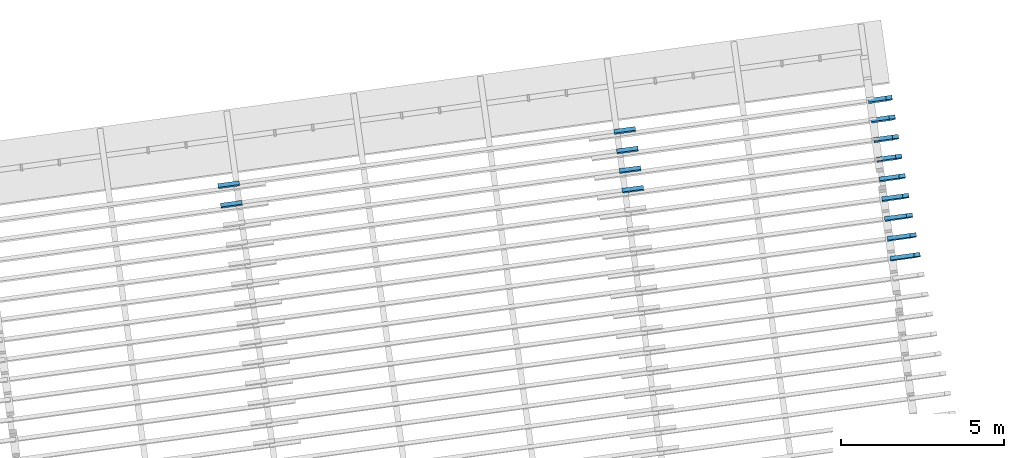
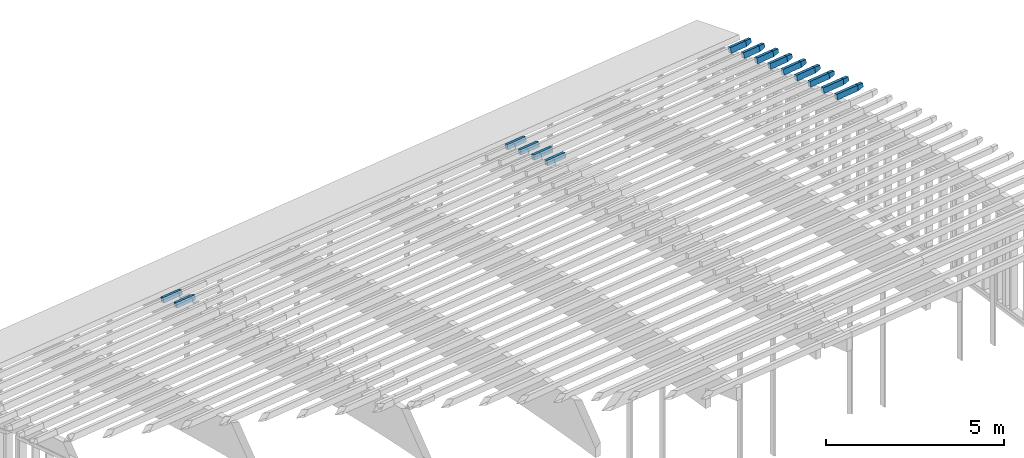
# One storey, part 18 of 18: 24 building element parts, 13 elements without a shape of their own.
"""IFC2X3 building model written with IfcOpenShell, lengths in metres."""

from ifc_helpers import new_model, entity, si_unit, converted_unit, derived_unit, money_unit, direction, frame, origin_with_axes, place, context, subcontext, project, spatial, faceted_brep, material, type_object, element, aggregate, save


model = new_model("IFC2X3")

# Units and contexts
model_context = context("Model", 3, precision=1e-05, world=origin_with_axes(), true_north=direction((0.0, 1.0)))
body_context = subcontext(model_context, "Body", "Model", "MODEL_VIEW")
ifc_project = project(units=[si_unit("LENGTHUNIT", "METRE"), si_unit("AREAUNIT", "SQUARE_METRE"), si_unit("VOLUMEUNIT", "CUBIC_METRE"), converted_unit("PLANEANGLEUNIT", "DEGREE", entity("IfcPlaneAngleMeasure", 0.0174532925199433), si_unit("PLANEANGLEUNIT", "RADIAN"), dimensions=[0, 0, 0, 0, 0, 0, 0]), money_unit("EUR"), converted_unit("TIMEUNIT", "Year", entity("IfcTimeMeasure", 31557600.0), si_unit("TIMEUNIT", "SECOND"), dimensions=[0, 0, 1, 0, 0, 0, 0]), si_unit("MASSUNIT", "GRAM", prefix="KILO"), si_unit("THERMODYNAMICTEMPERATUREUNIT", "DEGREE_CELSIUS"), si_unit("LUMINOUSINTENSITYUNIT", "LUMEN"), si_unit("ENERGYUNIT", "JOULE", prefix="MEGA"), derived_unit("THERMALCONDUCTANCEUNIT", [(si_unit("POWERUNIT", "WATT"), 1), (si_unit("LENGTHUNIT", "METRE"), -1), (si_unit("THERMODYNAMICTEMPERATUREUNIT", "KELVIN"), -1)]), derived_unit("SPECIFICHEATCAPACITYUNIT", [(si_unit("ENERGYUNIT", "JOULE"), 1), (si_unit("MASSUNIT", "GRAM", prefix="KILO"), -1), (si_unit("THERMODYNAMICTEMPERATUREUNIT", "KELVIN"), -1)]), derived_unit("MASSDENSITYUNIT", [(si_unit("MASSUNIT", "GRAM", prefix="KILO"), 1), (si_unit("VOLUMEUNIT", "CUBIC_METRE"), -1)])], contexts=[model_context])

# Site, building, storey
site_placement = place(None, origin_with_axes())
site = spatial("IfcSite", under=ifc_project, at=site_placement, Name="Gelände", CompositionType="ELEMENT")
building_placement = place(site_placement, origin_with_axes())
building = spatial("IfcBuilding", under=site, at=building_placement, Name="Gebäude", CompositionType="ELEMENT")
storey_placement = place(building_placement, frame((0.0, 0.0, 5.5), z_axis=(0.0, 0.0, 1.0), x_axis=(1.0, 0.0, 0.0)))
storey = spatial("IfcBuildingStorey", under=building, at=storey_placement, Name="OG", CompositionType="ELEMENT", Elevation=5.5)

# Beam, building element parts
beam_type_1 = type_object("IfcBeamType", Name="Verschiedene Strukturen - 3 Segmente - 120 x 200 x 12890 (660+11570+660)", PredefinedType="NOTDEFINED")
beam_1_placement = place(storey_placement, frame((91.86899275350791, -136.217618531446, 2.851585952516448), z_axis=(0.0, 0.0, 1.0), x_axis=(0.1357111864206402, -0.9907484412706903, 0.0)))
beam_1 = element("IfcBeam", 1, at=beam_1_placement, inside=storey, type_object=beam_type_1, Name="Unterzug-031")
ifc_material = material(Name="Bauholz")
building_element_part_1_placement = place(beam_1_placement, origin_with_axes())
building_element_part_1 = element("IfcBuildingElementPart", 2, at=building_element_part_1_placement, material=ifc_material, Name="Bauholz", context=body_context, shape_type="Brep", body=[
    faceted_brep([(0.09988462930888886, 0.6600000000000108, -0.1386472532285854), (0.09988462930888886, 0.0, -0.1386472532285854), (-0.01590977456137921, 0.0, -0.1701378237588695), (-0.01590977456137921, 0.6599999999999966, -0.1701378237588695), (0.05789720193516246, 0.6600000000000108, 0.01574528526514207), (0.05789720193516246, 0.0, 0.01574528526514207), (-0.05789720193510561, 0.0, -0.01574528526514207), (-0.05789720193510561, 0.6600000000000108, -0.01574528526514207)], [[[0, 1, 2, 3]], [[4, 5, 1, 0]], [[1, 5, 6, 2]], [[3, 2, 6, 7]], [[7, 4, 0, 3]], [[7, 6, 5, 4]]]),
])
building_element_part_2_placement = place(beam_1_placement, origin_with_axes())
building_element_part_2 = element("IfcBuildingElementPart", 3, at=building_element_part_2_placement, material=ifc_material, Name="Bauholz", context=body_context, shape_type="Brep", body=[
    faceted_brep([(-0.01590977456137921, 12.22957971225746, -0.1701378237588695), (-0.01590977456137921, 12.88957971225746, -0.1701378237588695), (0.09988462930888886, 12.88957971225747, -0.1386472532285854), (0.09988462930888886, 12.22957971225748, -0.1386472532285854), (-0.05789720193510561, 12.22957971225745, -0.01574528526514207), (-0.05789720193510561, 12.88957971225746, -0.01574528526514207), (0.05789720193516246, 12.88957971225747, 0.01574528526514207), (0.05789720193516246, 12.22957971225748, 0.01574528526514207)], [[[0, 1, 2, 3]], [[4, 5, 1, 0]], [[2, 1, 5, 6]], [[3, 2, 6, 7]], [[4, 0, 3, 7]], [[7, 6, 5, 4]]]),
])
aggregate(beam_1, [building_element_part_1, building_element_part_2])

beam_2_placement = place(storey_placement, frame((91.9510223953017, -136.816469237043, 3.011503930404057), z_axis=(0.0, 0.0, 1.0), x_axis=(0.1357111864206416, -0.9907484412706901, 0.0)))
beam_2 = element("IfcBeam", 4, at=beam_2_placement, inside=storey, type_object=beam_type_1, Name="Unterzug-031")
building_element_part_3_placement = place(beam_2_placement, origin_with_axes())
building_element_part_3 = element("IfcBuildingElementPart", 5, at=building_element_part_3_placement, material=ifc_material, Name="Bauholz", context=body_context, shape_type="Brep", body=[
    faceted_brep([(0.09841208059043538, 0.6600000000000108, -0.1396963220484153), (0.09841208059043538, 0.0, -0.1396963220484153), (-0.01770902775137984, 0.0, -0.1699599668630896), (-0.01770902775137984, 0.6599999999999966, -0.1699599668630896), (0.05806055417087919, 0.6600000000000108, 0.01513182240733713), (0.05806055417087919, 0.0, 0.01513182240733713), (-0.05806055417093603, 0.0, -0.01513182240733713), (-0.05806055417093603, 0.6599999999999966, -0.01513182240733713)], [[[0, 1, 2, 3]], [[4, 5, 1, 0]], [[1, 5, 6, 2]], [[3, 2, 6, 7]], [[7, 4, 0, 3]], [[7, 6, 5, 4]]]),
])
building_element_part_4_placement = place(beam_2_placement, origin_with_axes())
building_element_part_4 = element("IfcBuildingElementPart", 6, at=building_element_part_4_placement, material=ifc_material, Name="Bauholz", context=body_context, shape_type="Brep", body=[
    faceted_brep([(-0.01770902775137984, 12.22957971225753, -0.1699599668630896), (-0.01770902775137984, 12.88957971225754, -0.1699599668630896), (0.09841208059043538, 12.88957971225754, -0.1396963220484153), (0.09841208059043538, 12.22957971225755, -0.1396963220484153), (-0.05806055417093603, 12.22957971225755, -0.01513182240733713), (-0.05806055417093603, 12.88957971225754, -0.01513182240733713), (0.05806055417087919, 12.88957971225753, 0.01513182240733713), (0.05806055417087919, 12.22957971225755, 0.01513182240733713)], [[[0, 1, 2, 3]], [[4, 5, 1, 0]], [[2, 1, 5, 6]], [[3, 2, 6, 7]], [[4, 0, 3, 7]], [[7, 6, 5, 4]]]),
])
aggregate(beam_2, [building_element_part_3, building_element_part_4])

# Beam, building element part
beam_3_placement = place(storey_placement, frame((92.03326752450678, -137.4168930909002, 3.165295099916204), z_axis=(0.0, 0.0, 1.0), x_axis=(0.1357111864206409, -0.9907484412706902, 0.0)))
beam_3 = element("IfcBeam", 7, at=beam_3_placement, inside=storey, type_object=beam_type_1, Name="Unterzug-031")
building_element_part_5_placement = place(beam_3_placement, origin_with_axes())
building_element_part_5 = element("IfcBuildingElementPart", 8, at=building_element_part_5_placement, material=ifc_material, Name="Bauholz", context=body_context, shape_type="Brep", body=[
    faceted_brep([(-0.01950715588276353, 12.22957971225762, -0.1697629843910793), (-0.01950715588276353, 12.88957971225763, -0.1697629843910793), (0.0969278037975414, 12.88957971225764, -0.1407302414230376), (0.0969278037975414, 12.22957971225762, -0.1407302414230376), (-0.05821747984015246, 12.22957971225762, -0.01451637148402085), (-0.05821747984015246, 12.88957971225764, -0.01451637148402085), (0.05821747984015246, 12.88957971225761, 0.01451637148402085), (0.05821747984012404, 12.22957971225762, 0.01451637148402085)], [[[0, 1, 2, 3]], [[4, 5, 1, 0]], [[2, 1, 5, 6]], [[3, 2, 6, 7]], [[4, 0, 3, 7]], [[7, 6, 5, 4]]]),
])
aggregate(beam_3, [building_element_part_5])

beam_4_placement = place(storey_placement, frame((92.11571971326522, -138.0188285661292, 3.312943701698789), z_axis=(0.0, 0.0, 1.0), x_axis=(0.1357111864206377, -0.9907484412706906, 0.0)))
beam_4 = element("IfcBeam", 9, at=beam_4_placement, inside=storey, type_object=beam_type_1, Name="Unterzug-031")
building_element_part_6_placement = place(beam_4_placement, origin_with_axes())
building_element_part_6 = element("IfcBuildingElementPart", 10, at=building_element_part_6_placement, material=ifc_material, Name="Bauholz", context=body_context, shape_type="Brep", body=[
    faceted_brep([(-0.02130263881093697, 12.2295797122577, -0.1695470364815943), (-0.02130263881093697, 12.88957971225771, -0.1695470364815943), (0.09543304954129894, 12.88957971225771, -0.1417481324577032), (0.09543304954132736, 12.22957971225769, -0.1417481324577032), (-0.05836784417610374, 12.2295797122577, -0.01389945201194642), (-0.05836784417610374, 12.88957971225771, -0.01389945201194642), (0.05836784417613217, 12.88957971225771, 0.01389945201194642), (0.05836784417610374, 12.2295797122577, 0.01389945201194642)], [[[0, 1, 2, 3]], [[4, 5, 1, 0]], [[2, 1, 5, 6]], [[3, 2, 6, 7]], [[4, 0, 3, 7]], [[7, 6, 5, 4]]]),
])
aggregate(beam_4, [building_element_part_6])

beam_type_2 = type_object("IfcBeamType", Name="Verschiedene Strukturen - 4 Segmente - 120 x 200 x 9561 (970+7659+742+190)", PredefinedType="NOTDEFINED")
beam_5_placement = place(storey_placement, frame((103.8786249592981, -139.6137395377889, 3.980241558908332), z_axis=(0.0, 0.0, 1.0), x_axis=(0.1357111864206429, -0.99074844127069, 0.0)))
beam_5 = element("IfcBeam", 11, at=beam_5_placement, inside=storey, type_object=beam_type_2, Name="Unterzug-031")
building_element_part_7_placement = place(beam_5_placement, origin_with_axes())
building_element_part_7 = element("IfcBuildingElementPart", 12, at=building_element_part_7_placement, material=ifc_material, Name="Bauholz", context=body_context, shape_type="Brep", body=[
    faceted_brep([(0.02808614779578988, 9.561305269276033, -0.116853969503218), (0.02808614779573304, 9.561305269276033, 0.00513569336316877), (0.05902139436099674, 9.56130526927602, 0.01079235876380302), (0.08060611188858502, 9.561305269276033, -0.1072504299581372), (-0.05902139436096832, 9.556252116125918, -0.01079235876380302), (-0.03722148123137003, 9.557516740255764, -0.1300120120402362), (-0.05902139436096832, 9.371305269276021, -0.01079235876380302), (0.05902139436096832, 9.371305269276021, 0.01079235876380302), (0.09139847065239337, 9.371305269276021, -0.1662718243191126), (-0.02664431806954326, 9.371305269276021, -0.1878565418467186)], [[[0, 1, 2, 3]], [[4, 1, 0, 5]], [[1, 4, 6, 7, 2]], [[3, 2, 7, 8]], [[5, 0, 3, 8, 9]], [[4, 5, 9, 6]], [[8, 7, 6, 9]]]),
])

beam_type_3 = type_object("IfcBeamType", Name="Verschiedene Strukturen - 4 Segmente - 120 x 200 x 9525 (970+7659+706+190)", PredefinedType="NOTDEFINED")
beam_6_placement = place(storey_placement, frame((103.7952358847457, -139.0049644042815, 3.864643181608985), z_axis=(0.0, 0.0, 1.0), x_axis=(0.1357111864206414, -0.9907484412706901, 0.0)))
beam_6 = element("IfcBeam", 13, at=beam_6_placement, inside=storey, type_object=beam_type_3, Name="Unterzug-031")
building_element_part_8_placement = place(beam_6_placement, origin_with_axes())
building_element_part_8 = element("IfcBuildingElementPart", 14, at=building_element_part_8_placement, material=ifc_material, Name="Bauholz", context=body_context, shape_type="Brep", body=[
    faceted_brep([(0.09315334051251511, 8.629193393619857, -0.1652950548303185), (-0.02465436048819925, 8.629193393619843, -0.1881280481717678), (-0.0246543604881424, 9.335155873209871, -0.1881280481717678), (0.09315334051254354, 9.335155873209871, -0.1652950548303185), (0.05890385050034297, 8.629193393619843, 0.01141649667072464), (-0.05890385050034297, 8.629193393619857, -0.01141649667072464), (-0.05890385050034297, 9.335155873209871, -0.01141649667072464), (0.05890385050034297, 9.335155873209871, 0.01141649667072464)], [[[0, 1, 2, 3]], [[4, 5, 1, 0]], [[1, 5, 6, 2]], [[7, 3, 2, 6]], [[4, 0, 3, 7]], [[5, 4, 7, 6]]]),
])

# Building element part
building_element_part_9_placement = place(beam_5_placement, origin_with_axes())
building_element_part_9 = element("IfcBuildingElementPart", 15, at=building_element_part_9_placement, material=ifc_material, Name="Bauholz", context=body_context, shape_type="Brep", body=[
    faceted_brep([(0.09139847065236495, 8.629193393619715, -0.1662718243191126), (-0.02664431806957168, 8.629193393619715, -0.1878565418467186), (-0.02664431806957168, 9.371305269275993, -0.1878565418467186), (0.09139847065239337, 9.371305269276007, -0.1662718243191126), (0.05902139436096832, 8.629193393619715, 0.01079235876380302), (-0.05902139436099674, 8.629193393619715, -0.01079235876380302), (-0.05902139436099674, 9.371305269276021, -0.01079235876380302), (0.05902139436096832, 9.371305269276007, 0.01079235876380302)], [[[0, 1, 2, 3]], [[4, 5, 1, 0]], [[1, 5, 6, 2]], [[7, 3, 2, 6]], [[4, 0, 3, 7]], [[5, 4, 7, 6]]]),
])

aggregate(beam_5, [building_element_part_7, building_element_part_9])

building_element_part_10_placement = place(beam_6_placement, origin_with_axes())
building_element_part_10 = element("IfcBuildingElementPart", 16, at=building_element_part_10_placement, material=ifc_material, Name="Bauholz", context=body_context, shape_type="Brep", body=[
    faceted_brep([(0.0193934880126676, 9.525155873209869, -0.1184743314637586), (0.01939348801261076, 9.525155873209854, 0.00375876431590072), (0.05890385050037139, 9.52515587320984, 0.01141649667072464), (0.08173684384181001, 9.525155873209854, -0.1063912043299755), (-0.05890385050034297, 9.520613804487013, -0.01141649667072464), (-0.03587819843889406, 9.521949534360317, -0.130218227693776), (-0.05890385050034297, 9.335155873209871, -0.01141649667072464), (0.05890385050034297, 9.335155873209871, 0.01141649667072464), (0.09315334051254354, 9.335155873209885, -0.1652950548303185), (-0.0246543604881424, 9.335155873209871, -0.1881280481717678)], [[[0, 1, 2, 3]], [[4, 1, 0, 5]], [[1, 4, 6, 7, 2]], [[3, 2, 7, 8]], [[5, 0, 3, 8, 9]], [[4, 5, 9, 6]], [[8, 7, 6, 9]]]),
])

aggregate(beam_6, [building_element_part_8, building_element_part_10])

# Beam, building element parts
beam_type_4 = type_object("IfcBeamType", Name="Verschiedene Strukturen - 4 Segmente - 120 x 200 x 9492 (970+7659+673+190)", PredefinedType="NOTDEFINED")
beam_7_placement = place(storey_placement, frame((103.7120060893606, -138.3973520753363, 3.742971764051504), z_axis=(0.0, 0.0, 1.0), x_axis=(0.135711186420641, -0.9907484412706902, 0.0)))
beam_7 = element("IfcBeam", 17, at=beam_7_placement, inside=storey, type_object=beam_type_4, Name="Unterzug-031")
building_element_part_11_placement = place(beam_7_placement, origin_with_axes())
building_element_part_11 = element("IfcBuildingElementPart", 18, at=building_element_part_11_placement, material=ifc_material, Name="Bauholz", context=body_context, shape_type="Brep", body=[
    faceted_brep([(0.02032024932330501, 9.492344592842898, -0.1183292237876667), (0.02032024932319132, 9.492344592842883, 0.00416200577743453), (0.05877971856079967, 9.492344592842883, 0.01203929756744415), (0.08285831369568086, 9.492344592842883, -0.1055201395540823), (-0.0587797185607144, 9.488492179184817, -0.01203929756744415), (-0.03453184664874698, 9.48967312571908, -0.1304251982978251), (-0.0587797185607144, 9.302344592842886, -0.01203929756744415), (0.05877971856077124, 9.302344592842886, 0.01203929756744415), (0.09489761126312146, 9.302344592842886, -0.1642998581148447), (-0.0226618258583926, 9.302344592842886, -0.1883784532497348)], [[[0, 1, 2, 3]], [[4, 1, 0, 5]], [[1, 4, 6, 7, 2]], [[3, 2, 7, 8]], [[5, 0, 3, 8, 9]], [[4, 5, 9, 6]], [[8, 7, 6, 9]]]),
])
building_element_part_12_placement = place(beam_7_placement, origin_with_axes())
building_element_part_12 = element("IfcBuildingElementPart", 19, at=building_element_part_12_placement, material=ifc_material, Name="Bauholz", context=body_context, shape_type="Brep", body=[
    faceted_brep([(0.09489761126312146, 8.629193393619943, -0.1642998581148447), (-0.0226618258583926, 8.629193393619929, -0.1883784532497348), (-0.02266182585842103, 9.302344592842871, -0.1883784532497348), (0.09489761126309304, 9.302344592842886, -0.1642998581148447), (0.05877971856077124, 8.629193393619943, 0.01203929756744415), (-0.0587797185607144, 8.629193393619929, -0.01203929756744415), (-0.05877971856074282, 9.302344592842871, -0.01203929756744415), (0.05877971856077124, 9.302344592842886, 0.01203929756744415)], [[[0, 1, 2, 3]], [[4, 5, 1, 0]], [[1, 5, 6, 2]], [[7, 3, 2, 6]], [[4, 0, 3, 7]], [[5, 4, 7, 6]]]),
])
aggregate(beam_7, [building_element_part_11, building_element_part_12])

beam_type_5 = type_object("IfcBeamType", Name="Verschiedene Strukturen - 4 Segmente - 120 x 200 x 9463 (970+7659+644+190)", PredefinedType="NOTDEFINED")
beam_8_placement = place(storey_placement, frame((103.6289532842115, -137.7910318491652, 3.614903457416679), z_axis=(0.0, 0.0, 1.0), x_axis=(0.1357111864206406, -0.9907484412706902, 0.0)))
beam_8 = element("IfcBeam", 20, at=beam_8_placement, inside=storey, type_object=beam_type_5, Name="Unterzug-031")
building_element_part_13_placement = place(beam_8_placement, origin_with_axes())
building_element_part_13 = element("IfcBuildingElementPart", 21, at=building_element_part_13_placement, material=ifc_material, Name="Bauholz", context=body_context, shape_type="Brep", body=[
    faceted_brep([(0.02673652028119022, 9.462851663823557, -0.1169925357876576), (0.02673652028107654, 9.462851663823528, 0.005771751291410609), (0.05864897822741, 9.462851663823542, 0.0126608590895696), (0.08397069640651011, 9.462851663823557, -0.104637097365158), (-0.05864897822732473, 9.458693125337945, -0.0126608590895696), (-0.03313296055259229, 9.45993583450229, -0.1308588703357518), (-0.05864897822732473, 9.27285166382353, -0.0126608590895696), (0.05864897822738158, 9.27285166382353, 0.0126608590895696), (0.09663155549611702, 9.27285166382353, -0.1632860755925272), (-0.02066640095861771, 9.27285166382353, -0.1886077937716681)], [[[0, 1, 2, 3]], [[4, 1, 0, 5]], [[1, 4, 6, 7, 2]], [[3, 2, 7, 8]], [[5, 0, 3, 8, 9]], [[4, 5, 9, 6]], [[8, 7, 6, 9]]]),
])
building_element_part_14_placement = place(beam_8_placement, origin_with_axes())
building_element_part_14 = element("IfcBuildingElementPart", 22, at=building_element_part_14_placement, material=ifc_material, Name="Bauholz", context=body_context, shape_type="Brep", body=[
    faceted_brep([(0.09663155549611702, 8.629193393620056, -0.1632860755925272), (-0.02066640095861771, 8.629193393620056, -0.1886077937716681), (-0.02066640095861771, 9.27285166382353, -0.1886077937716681), (0.09663155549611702, 9.27285166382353, -0.1632860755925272), (0.05864897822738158, 8.629193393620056, 0.0126608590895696), (-0.05864897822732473, 8.629193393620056, -0.0126608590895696), (-0.05864897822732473, 9.272851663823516, -0.0126608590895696), (0.05864897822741, 9.27285166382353, 0.0126608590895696)], [[[0, 1, 2, 3]], [[4, 5, 1, 0]], [[1, 5, 6, 2]], [[7, 3, 2, 6]], [[4, 0, 3, 7]], [[5, 4, 7, 6]]]),
])
aggregate(beam_8, [building_element_part_13, building_element_part_14])

beam_type_6 = type_object("IfcBeamType", Name="Verschiedene Strukturen - 4 Segmente - 120 x 200 x 9437 (970+7659+617+190)", PredefinedType="NOTDEFINED")
beam_9_placement = place(storey_placement, frame((103.5460778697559, -137.1860066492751, 3.480744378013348), z_axis=(0.0, 0.0, 1.0), x_axis=(0.1357111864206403, -0.9907484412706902, 0.0)))
beam_9 = element("IfcBeam", 23, at=beam_9_placement, inside=storey, type_object=beam_type_6, Name="Unterzug-031")
building_element_part_15_placement = place(beam_9_placement, origin_with_axes())
building_element_part_15 = element("IfcBuildingElementPart", 24, at=building_element_part_15_placement, material=ifc_material, Name="Bauholz", context=body_context, shape_type="Brep", body=[
    faceted_brep([(0.09835420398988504, 8.629193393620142, -0.162254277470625), (-0.01866920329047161, 8.629193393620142, -0.188815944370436), (-0.01866920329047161, 9.246656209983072, -0.188815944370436), (0.09835420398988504, 9.246656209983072, -0.162254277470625), (0.05851170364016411, 8.629193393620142, 0.01328083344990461), (-0.05851170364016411, 8.629193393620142, -0.01328083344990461), (-0.05851170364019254, 9.246656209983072, -0.01328083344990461), (0.05851170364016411, 9.246656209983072, 0.01328083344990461)], [[[0, 1, 2, 3]], [[4, 5, 1, 0]], [[1, 5, 6, 2]], [[7, 3, 2, 6]], [[4, 0, 3, 7]], [[5, 4, 7, 6]]]),
])
building_element_part_16_placement = place(beam_9_placement, origin_with_axes())
building_element_part_16 = element("IfcBuildingElementPart", 25, at=building_element_part_16_placement, material=ifc_material, Name="Bauholz", context=body_context, shape_type="Brep", body=[
    faceted_brep([(0.01544225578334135, 9.436656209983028, -0.1195472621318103), (0.01544225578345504, 9.436656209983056, 0.003505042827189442), (0.05851170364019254, 9.436656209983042, 0.01328083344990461), (0.08507337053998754, 9.436656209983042, -0.1037425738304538), (-0.05851170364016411, 9.433742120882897, -0.01328083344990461), (-0.03181986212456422, 9.434793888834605, -0.1308777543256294), (-0.05851170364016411, 9.246656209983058, -0.01328083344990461), (0.05851170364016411, 9.246656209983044, 0.01328083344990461), (0.09835420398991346, 9.246656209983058, -0.162254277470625), (-0.01866920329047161, 9.246656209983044, -0.188815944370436)], [[[0, 1, 2, 3]], [[4, 1, 0, 5]], [[1, 4, 6, 7, 2]], [[3, 2, 7, 8]], [[5, 0, 3, 8, 9]], [[4, 5, 9, 6]], [[8, 7, 6, 9]]]),
])
aggregate(beam_9, [building_element_part_15, building_element_part_16])

beam_type_7 = type_object("IfcBeamType", Name="Verschiedene Strukturen - 4 Segmente - 120 x 200 x 9414 (970+7659+595+190)", PredefinedType="NOTDEFINED")
beam_10_placement = place(storey_placement, frame((103.4633910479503, -136.5823582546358, 3.340410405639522), z_axis=(0.0, 0.0, 1.0), x_axis=(0.1357111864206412, -0.9907484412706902, 0.0)))
beam_10 = element("IfcBeam", 26, at=beam_10_placement, inside=storey, type_object=beam_type_7, Name="Unterzug-031")
building_element_part_17_placement = place(beam_10_placement, origin_with_axes())
building_element_part_17 = element("IfcBuildingElementPart", 27, at=building_element_part_17_placement, material=ifc_material, Name="Bauholz", context=body_context, shape_type="Brep", body=[
    faceted_brep([(0.1000662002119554, 8.629210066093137, -0.1612040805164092), (-0.01666948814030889, 8.629210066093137, -0.1890029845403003), (-0.01666948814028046, 9.223736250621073, -0.1890029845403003), (0.1000662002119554, 9.223736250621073, -0.1612040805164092), (0.05836784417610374, 8.629210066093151, 0.01389945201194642), (-0.05836784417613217, 8.629210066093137, -0.01389945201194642), (-0.05836784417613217, 9.223736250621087, -0.01389945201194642), (0.05836784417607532, 9.223736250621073, 0.01389945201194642)], [[[0, 1, 2, 3]], [[4, 5, 1, 0]], [[1, 5, 6, 2]], [[7, 3, 2, 6]], [[4, 0, 3, 7]], [[5, 4, 7, 6]]]),
])
building_element_part_18_placement = place(beam_10_placement, origin_with_axes())
building_element_part_18 = element("IfcBuildingElementPart", 28, at=building_element_part_18_placement, material=ifc_material, Name="Bauholz", context=body_context, shape_type="Brep", body=[
    faceted_brep([(0.04306313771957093, 9.413736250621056, -0.1131007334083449), (0.04306313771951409, 9.413736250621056, 0.01025485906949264), (0.05836784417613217, 9.413736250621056, 0.01389945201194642), (0.08616674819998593, 9.413736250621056, -0.1028362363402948), (-0.01359456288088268, 9.411503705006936, -0.00323734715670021), (-0.01359456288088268, 9.411503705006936, -0.1273176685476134), (-0.05836784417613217, 9.41015549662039, -0.01389945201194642), (-0.05836784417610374, 9.223736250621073, -0.01389945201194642), (0.05836784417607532, 9.223736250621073, 0.01389945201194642), (0.1000662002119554, 9.223736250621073, -0.1612040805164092), (-0.01666948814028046, 9.223736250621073, -0.1890029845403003), (-0.03036866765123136, 9.410998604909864, -0.1314761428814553)], [[[0, 1, 2, 3]], [[4, 1, 0, 5]], [[4, 6, 7, 8, 2, 1]], [[3, 2, 8, 9]], [[5, 0, 3, 9, 10, 11]], [[6, 4, 5, 11]], [[6, 11, 10, 7]], [[9, 8, 7, 10]]]),
])
aggregate(beam_10, [building_element_part_17, building_element_part_18])

# Beam, building element part
beam_type_8 = type_object("IfcBeamType", Name="Verschiedene Strukturen - 4 Segmente - 120 x 200 x 9394 (970+7659+575+190)", PredefinedType="NOTDEFINED")
beam_11_placement = place(storey_placement, frame((103.3809012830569, -135.9801484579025, 3.193916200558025), z_axis=(0.0, 0.0, 1.0), x_axis=(0.1357111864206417, -0.9907484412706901, 0.0)))
beam_11 = element("IfcBeam", 29, at=beam_11_placement, inside=storey, type_object=beam_type_8, Name="Unterzug-031")
building_element_part_19_placement = place(beam_11_placement, origin_with_axes())
building_element_part_19 = element("IfcBuildingElementPart", 30, at=building_element_part_19_placement, material=ifc_material, Name="Bauholz", context=body_context, shape_type="Brep", body=[
    faceted_brep([(0.1017665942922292, 8.62921006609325, -0.1601360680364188), (-0.0146683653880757, 8.62921006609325, -0.1891688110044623), (-0.0146683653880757, 9.20406870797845, -0.1891688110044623), (0.1017665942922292, 9.20406870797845, -0.1601360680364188), (0.05821747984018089, 8.62921006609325, 0.01451637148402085), (-0.05821747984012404, 8.629210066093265, -0.01451637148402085), (-0.05821747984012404, 9.20406870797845, -0.01451637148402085), (0.05821747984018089, 9.20406870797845, 0.01451637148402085)], [[[0, 1, 2, 3]], [[4, 5, 1, 0]], [[1, 5, 6, 2]], [[7, 3, 2, 6]], [[4, 0, 3, 7]], [[5, 4, 7, 6]]]),
])

# Beam, building element parts
beam_type_9 = type_object("IfcBeamType", Name="Verschiedene Strukturen - 4 Segmente - 120 x 200 x 9378 (970+7659+558+190)", PredefinedType="NOTDEFINED")
beam_12_placement = place(storey_placement, frame((103.2986170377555, -135.3794390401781, 3.04127648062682), z_axis=(0.0, 0.0, 1.0), x_axis=(0.1357111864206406, -0.9907484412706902, 0.0)))
beam_12 = element("IfcBeam", 31, at=beam_12_placement, inside=storey, type_object=beam_type_9, Name="Unterzug-031")
building_element_part_20_placement = place(beam_12_placement, origin_with_axes())
building_element_part_20 = element("IfcBuildingElementPart", 32, at=building_element_part_20_placement, material=ifc_material, Name="Bauholz", context=body_context, shape_type="Brep", body=[
    faceted_brep([(0.1034560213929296, 8.62921006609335, -0.1590498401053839), (-0.01266508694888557, 8.629210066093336, -0.1893134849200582), (-0.012665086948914, 9.187629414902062, -0.1893134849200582), (0.1034560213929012, 9.187629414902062, -0.1590498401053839), (0.05806055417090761, 8.629210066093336, 0.01513182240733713), (-0.05806055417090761, 8.62921006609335, -0.01513182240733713), (-0.05806055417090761, 9.187629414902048, -0.01513182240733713), (0.05806055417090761, 9.187629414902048, 0.01513182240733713)], [[[0, 1, 2, 3]], [[4, 5, 1, 0]], [[1, 5, 6, 2]], [[7, 3, 2, 6]], [[4, 0, 3, 7]], [[5, 4, 7, 6]]]),
])
building_element_part_21_placement = place(beam_12_placement, origin_with_axes())
building_element_part_21 = element("IfcBuildingElementPart", 33, at=building_element_part_21_placement, material=ifc_material, Name="Bauholz", context=body_context, shape_type="Brep", body=[
    faceted_brep([(0.05520354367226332, 9.377629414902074, -0.109621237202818), (0.05520354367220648, 9.37762941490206, 0.01438722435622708), (0.05806055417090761, 9.37762941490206, 0.01513182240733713), (0.08832419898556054, 9.37762941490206, -0.1009892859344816), (-0.05806055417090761, 9.375270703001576, -0.01513182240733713), (-0.02765947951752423, 9.375903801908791, -0.1317802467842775), (-0.05806055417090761, 9.187629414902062, -0.01513182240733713), (0.05806055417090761, 9.187629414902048, 0.01513182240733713), (0.1034560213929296, 9.187629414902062, -0.1590498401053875), (-0.01266508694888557, 9.187629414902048, -0.1893134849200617)], [[[0, 1, 2, 3]], [[4, 1, 0, 5]], [[1, 4, 6, 7, 2]], [[3, 2, 7, 8]], [[5, 0, 3, 8, 9]], [[4, 5, 9, 6]], [[8, 7, 6, 9]]]),
])
aggregate(beam_12, [building_element_part_20, building_element_part_21])

# Beam, building element part
beam_type_10 = type_object("IfcBeamType", Name="Verschiedene Strukturen - 4 Segmente - 120 x 200 x 9364 (970+7659+545+190)", PredefinedType="NOTDEFINED")
beam_13_placement = place(storey_placement, frame((103.2165467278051, -134.7802914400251, 2.882507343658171), z_axis=(0.0, 0.0, 1.0), x_axis=(0.135711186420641, -0.9907484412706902, 0.0)))
beam_13 = element("IfcBeam", 34, at=beam_13_placement, inside=storey, type_object=beam_type_10, Name="Unterzug-031")
building_element_part_22_placement = place(beam_13_placement, origin_with_axes())
building_element_part_22 = element("IfcBuildingElementPart", 35, at=building_element_part_22_placement, material=ifc_material, Name="Bauholz", context=body_context, shape_type="Brep", body=[
    faceted_brep([(0.1051330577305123, 8.62921006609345, -0.1579463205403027), (-0.01066134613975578, 8.62921006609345, -0.189436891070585), (-0.01066134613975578, 9.1743931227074, -0.189436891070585), (0.1051330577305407, 9.174393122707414, -0.1579463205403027), (0.05789720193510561, 8.629210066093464, 0.01574528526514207), (-0.05789720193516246, 8.62921006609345, -0.01574528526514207), (-0.05789720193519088, 9.174393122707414, -0.01574528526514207), (0.05789720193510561, 9.174393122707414, 0.01574528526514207)], [[[0, 1, 2, 3]], [[4, 5, 1, 0]], [[1, 5, 6, 2]], [[7, 3, 2, 6]], [[4, 0, 3, 7]], [[5, 4, 7, 6]]]),
])

# Building element part
building_element_part_23_placement = place(beam_11_placement, origin_with_axes())
building_element_part_23 = element("IfcBuildingElementPart", 36, at=building_element_part_23_placement, material=ifc_material, Name="Bauholz", context=body_context, shape_type="Brep", body=[
    faceted_brep([(0.0152316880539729, 9.394068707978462, -0.1198762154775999), (0.01523168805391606, 9.394068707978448, 0.003797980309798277), (0.05821747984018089, 9.394068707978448, 0.01451637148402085), (0.08725022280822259, 9.394068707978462, -0.1019185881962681), (-0.05821747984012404, 9.391857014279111, -0.01451637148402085), (-0.02908278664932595, 9.392734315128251, -0.1313601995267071), (-0.05821747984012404, 9.204068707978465, -0.01451637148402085), (0.05821747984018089, 9.204068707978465, 0.01451637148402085), (0.1017665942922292, 9.204068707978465, -0.1601360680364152), (-0.01466836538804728, 9.204068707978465, -0.1891688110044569)], [[[0, 1, 2, 3]], [[4, 1, 0, 5]], [[1, 4, 6, 7, 2]], [[3, 2, 7, 8]], [[5, 0, 3, 8, 9]], [[4, 5, 9, 6]], [[8, 7, 6, 9]]]),
])

aggregate(beam_11, [building_element_part_19, building_element_part_23])

building_element_part_24_placement = place(beam_13_placement, origin_with_axes())
building_element_part_24 = element("IfcBuildingElementPart", 37, at=building_element_part_24_placement, material=ifc_material, Name="Bauholz", context=body_context, shape_type="Brep", body=[
    faceted_brep([(0.02434620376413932, 9.36439312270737, -0.1177373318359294), (0.02434620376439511, 9.364393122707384, 0.006621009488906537), (0.05789720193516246, 9.364393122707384, 0.01574528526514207), (0.08938777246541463, 9.364393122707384, -0.1000491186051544), (-0.05789720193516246, 9.362680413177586, -0.01574528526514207), (-0.02631919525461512, 9.363338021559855, -0.1318612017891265), (-0.05789720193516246, 9.174393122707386, -0.01574528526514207), (0.05789720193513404, 9.174393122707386, 0.01574528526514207), (0.1051330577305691, 9.174393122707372, -0.1579463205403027), (-0.01066134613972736, 9.174393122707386, -0.189436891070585)], [[[0, 1, 2, 3]], [[4, 1, 0, 5]], [[1, 4, 6, 7, 2]], [[3, 2, 7, 8]], [[5, 0, 3, 8, 9]], [[4, 5, 9, 6]], [[8, 7, 6, 9]]]),
])

aggregate(beam_13, [building_element_part_22, building_element_part_24])

save(model, "model.ifc")
